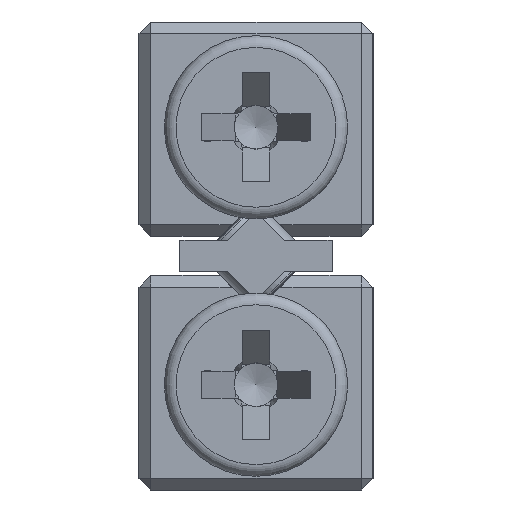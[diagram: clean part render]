
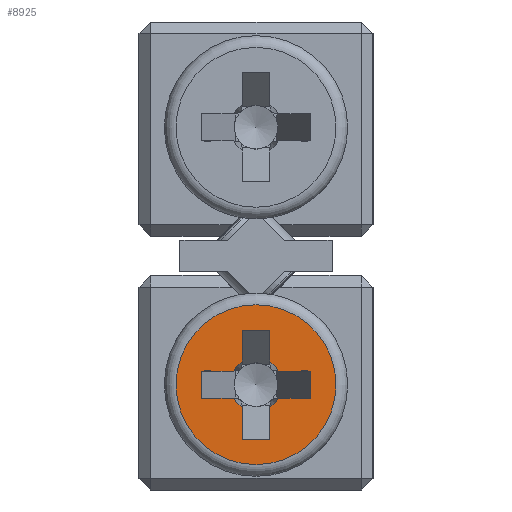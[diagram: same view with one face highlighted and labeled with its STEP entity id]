
A CAD part, left-side view. The second image highlights one B-rep face of the part: STEP entity #8925.
In plain terms, the highlighted planar face has unit normal (-1, 0, 0).
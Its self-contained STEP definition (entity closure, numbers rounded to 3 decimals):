
#24 = ORIENTED_EDGE ( 'NONE', *, *, #16150, .F. ) ;
#313 = CARTESIAN_POINT ( 'NONE',  ( -61.5, -0.35, 4.1 ) ) ;
#413 = VECTOR ( 'NONE', #11009, 1000. ) ;
#450 = LINE ( 'NONE', #17462, #6856 ) ;
#516 = VERTEX_POINT ( 'NONE', #16585 ) ;
#629 = CARTESIAN_POINT ( 'NONE',  ( -61.5, 1.4, 3.05 ) ) ;
#664 = LINE ( 'NONE', #7741, #19933 ) ;
#729 = DIRECTION ( 'NONE',  ( -1., 0., 0. ) ) ;
#1115 = CIRCLE ( 'NONE', #4017, 0.678 ) ;
#1182 = CARTESIAN_POINT ( 'NONE',  ( -61.5, 0., 2.7 ) ) ;
#1490 = VERTEX_POINT ( 'NONE', #2680 ) ;
#1980 = EDGE_CURVE ( 'NONE', #20779, #22407, #5879, .T. ) ;
#2108 = AXIS2_PLACEMENT_3D ( 'NONE', #13806, #6939, #20787 ) ;
#2187 = DIRECTION ( 'NONE',  ( 0., 0., 1. ) ) ;
#2680 = CARTESIAN_POINT ( 'NONE',  ( -61.5, -0.35, 1.3 ) ) ;
#2776 = VECTOR ( 'NONE', #5892, 1000. ) ;
#3002 = LINE ( 'NONE', #9977, #2776 ) ;
#3244 = ORIENTED_EDGE ( 'NONE', *, *, #3549, .F. ) ;
#3386 = EDGE_CURVE ( 'NONE', #18626, #16954, #21115, .T. ) ;
#3407 = CARTESIAN_POINT ( 'NONE',  ( -61.5, -0.35, 4.1 ) ) ;
#3509 = ORIENTED_EDGE ( 'NONE', *, *, #5970, .T. ) ;
#3549 = EDGE_CURVE ( 'NONE', #516, #17840, #20418, .T. ) ;
#3640 = CARTESIAN_POINT ( 'NONE',  ( -61.5, 0., 0.65 ) ) ;
#3646 = FACE_OUTER_BOUND ( 'NONE', #7151, .T. ) ;
#3744 = DIRECTION ( 'NONE',  ( 0., 1., 0. ) ) ;
#3799 = LINE ( 'NONE', #16242, #13519 ) ;
#3919 = LINE ( 'NONE', #17848, #5748 ) ;
#3938 = CIRCLE ( 'NONE', #2108, 0.678 ) ;
#3954 = ORIENTED_EDGE ( 'NONE', *, *, #8080, .T. ) ;
#4017 = AXIS2_PLACEMENT_3D ( 'NONE', #10865, #19435, #2187 ) ;
#4794 = CARTESIAN_POINT ( 'NONE',  ( -61.5, 0.581, 3.05 ) ) ;
#5191 = EDGE_CURVE ( 'NONE', #19274, #19274, #22182, .T. ) ;
#5231 = LINE ( 'NONE', #5561, #16868 ) ;
#5510 = DIRECTION ( 'NONE',  ( 0., -1., 0. ) ) ;
#5561 = CARTESIAN_POINT ( 'NONE',  ( -61.5, -1.4, 2.35 ) ) ;
#5697 = EDGE_CURVE ( 'NONE', #10994, #1490, #450, .T. ) ;
#5748 = VECTOR ( 'NONE', #12161, 1000. ) ;
#5798 = ORIENTED_EDGE ( 'NONE', *, *, #21522, .F. ) ;
#5879 = LINE ( 'NONE', #629, #413 ) ;
#5892 = DIRECTION ( 'NONE',  ( 0., -1., 0. ) ) ;
#5970 = EDGE_CURVE ( 'NONE', #19897, #14652, #11843, .T. ) ;
#5976 = DIRECTION ( 'NONE',  ( 0., 0., 1. ) ) ;
#6063 = DIRECTION ( 'NONE',  ( 0., 0., 1. ) ) ;
#6307 = ORIENTED_EDGE ( 'NONE', *, *, #11446, .F. ) ;
#6421 = VERTEX_POINT ( 'NONE', #8206 ) ;
#6501 = CIRCLE ( 'NONE', #17443, 0.678 ) ;
#6505 = CARTESIAN_POINT ( 'NONE',  ( -61.5, 0., 2.7 ) ) ;
#6810 = DIRECTION ( 'NONE',  ( 0., 0., 1. ) ) ;
#6856 = VECTOR ( 'NONE', #7284, 1000. ) ;
#6939 = DIRECTION ( 'NONE',  ( -1., 0., 0. ) ) ;
#7120 = CARTESIAN_POINT ( 'NONE',  ( -61.5, 0.581, 2.35 ) ) ;
#7151 = EDGE_LOOP ( 'NONE', ( #16895 ) ) ;
#7284 = DIRECTION ( 'NONE',  ( 0., 0., -1. ) ) ;
#7615 = CARTESIAN_POINT ( 'NONE',  ( -61.5, -0.35, 4.1 ) ) ;
#7736 = CARTESIAN_POINT ( 'NONE',  ( -61.5, -1.4, 2.35 ) ) ;
#7741 = CARTESIAN_POINT ( 'NONE',  ( -61.5, 0.35, 1.3 ) ) ;
#8080 = EDGE_CURVE ( 'NONE', #21343, #16954, #664, .T. ) ;
#8138 = DIRECTION ( 'NONE',  ( 0., 0., -1. ) ) ;
#8206 = CARTESIAN_POINT ( 'NONE',  ( -61.5, -0.581, 2.35 ) ) ;
#8251 = CIRCLE ( 'NONE', #15899, 0.678 ) ;
#8387 = VERTEX_POINT ( 'NONE', #19574 ) ;
#8562 = LINE ( 'NONE', #10609, #9134 ) ;
#8701 = CARTESIAN_POINT ( 'NONE',  ( -61.5, 0., 2.7 ) ) ;
#8784 = ORIENTED_EDGE ( 'NONE', *, *, #8829, .F. ) ;
#8829 = EDGE_CURVE ( 'NONE', #10994, #6421, #8251, .T. ) ;
#8836 = CARTESIAN_POINT ( 'NONE',  ( -61.5, -0.35, 2.119 ) ) ;
#8925 = ADVANCED_FACE ( 'NONE', ( #3646, #19171 ), #22509, .F. ) ;
#9134 = VECTOR ( 'NONE', #19392, 1000. ) ;
#9160 = ORIENTED_EDGE ( 'NONE', *, *, #1980, .T. ) ;
#9196 = DIRECTION ( 'NONE',  ( 0., 0., -1. ) ) ;
#9380 = ORIENTED_EDGE ( 'NONE', *, *, #11016, .F. ) ;
#9977 = CARTESIAN_POINT ( 'NONE',  ( -61.5, 0.35, 1.3 ) ) ;
#10205 = ORIENTED_EDGE ( 'NONE', *, *, #13922, .T. ) ;
#10507 = CARTESIAN_POINT ( 'NONE',  ( -61.5, -0.35, 3.281 ) ) ;
#10609 = CARTESIAN_POINT ( 'NONE',  ( -61.5, -1.4, 2.35 ) ) ;
#10641 = VECTOR ( 'NONE', #21673, 1000. ) ;
#10706 = DIRECTION ( 'NONE',  ( 0., 0., 1. ) ) ;
#10865 = CARTESIAN_POINT ( 'NONE',  ( -61.5, 0., 2.7 ) ) ;
#10994 = VERTEX_POINT ( 'NONE', #8836 ) ;
#11009 = DIRECTION ( 'NONE',  ( 0., -1., 0. ) ) ;
#11016 = EDGE_CURVE ( 'NONE', #20779, #14107, #3919, .T. ) ;
#11030 = CARTESIAN_POINT ( 'NONE',  ( -61.5, -1.4, 3.05 ) ) ;
#11056 = ORIENTED_EDGE ( 'NONE', *, *, #11830, .T. ) ;
#11446 = EDGE_CURVE ( 'NONE', #21343, #22407, #6501, .T. ) ;
#11731 = CARTESIAN_POINT ( 'NONE',  ( -61.5, 0.35, 1.3 ) ) ;
#11830 = EDGE_CURVE ( 'NONE', #18626, #18370, #14238, .T. ) ;
#11843 = LINE ( 'NONE', #11731, #13050 ) ;
#12161 = DIRECTION ( 'NONE',  ( 0., 0., -1. ) ) ;
#12246 = VERTEX_POINT ( 'NONE', #7120 ) ;
#12311 = AXIS2_PLACEMENT_3D ( 'NONE', #1182, #16831, #8138 ) ;
#12822 = ORIENTED_EDGE ( 'NONE', *, *, #3386, .F. ) ;
#13050 = VECTOR ( 'NONE', #6810, 1000. ) ;
#13490 = CARTESIAN_POINT ( 'NONE',  ( -61.5, 0.35, 1.3 ) ) ;
#13519 = VECTOR ( 'NONE', #5510, 1000. ) ;
#13806 = CARTESIAN_POINT ( 'NONE',  ( -61.5, 0., 2.7 ) ) ;
#13870 = EDGE_CURVE ( 'NONE', #12246, #14652, #1115, .T. ) ;
#13922 = EDGE_CURVE ( 'NONE', #8387, #17840, #3799, .T. ) ;
#14107 = VERTEX_POINT ( 'NONE', #17164 ) ;
#14238 = LINE ( 'NONE', #313, #18557 ) ;
#14652 = VERTEX_POINT ( 'NONE', #17750 ) ;
#15660 = ORIENTED_EDGE ( 'NONE', *, *, #5697, .T. ) ;
#15691 = DIRECTION ( 'NONE',  ( -1., 0., 0. ) ) ;
#15899 = AXIS2_PLACEMENT_3D ( 'NONE', #6505, #729, #5976 ) ;
#15971 = DIRECTION ( 'NONE',  ( 0., 0., -1. ) ) ;
#16150 = EDGE_CURVE ( 'NONE', #19897, #1490, #3002, .T. ) ;
#16242 = CARTESIAN_POINT ( 'NONE',  ( -61.5, 1.4, 3.05 ) ) ;
#16585 = CARTESIAN_POINT ( 'NONE',  ( -61.5, -1.4, 2.35 ) ) ;
#16831 = DIRECTION ( 'NONE',  ( -1., 0., 0. ) ) ;
#16868 = VECTOR ( 'NONE', #22600, 1000. ) ;
#16895 = ORIENTED_EDGE ( 'NONE', *, *, #5191, .T. ) ;
#16954 = VERTEX_POINT ( 'NONE', #22090 ) ;
#17164 = CARTESIAN_POINT ( 'NONE',  ( -61.5, 1.4, 2.35 ) ) ;
#17423 = EDGE_CURVE ( 'NONE', #12246, #14107, #8562, .T. ) ;
#17443 = AXIS2_PLACEMENT_3D ( 'NONE', #8701, #15691, #6063 ) ;
#17462 = CARTESIAN_POINT ( 'NONE',  ( -61.5, -0.35, 4.1 ) ) ;
#17750 = CARTESIAN_POINT ( 'NONE',  ( -61.5, 0.35, 2.119 ) ) ;
#17840 = VERTEX_POINT ( 'NONE', #11030 ) ;
#17848 = CARTESIAN_POINT ( 'NONE',  ( -61.5, 1.4, 3.05 ) ) ;
#18313 = VECTOR ( 'NONE', #3744, 1000. ) ;
#18370 = VERTEX_POINT ( 'NONE', #10507 ) ;
#18484 = ORIENTED_EDGE ( 'NONE', *, *, #13870, .F. ) ;
#18557 = VECTOR ( 'NONE', #9196, 1000. ) ;
#18626 = VERTEX_POINT ( 'NONE', #3407 ) ;
#18688 = EDGE_CURVE ( 'NONE', #516, #6421, #5231, .T. ) ;
#18787 = ORIENTED_EDGE ( 'NONE', *, *, #17423, .T. ) ;
#19171 = FACE_BOUND ( 'NONE', #21614, .T. ) ;
#19274 = VERTEX_POINT ( 'NONE', #3640 ) ;
#19392 = DIRECTION ( 'NONE',  ( 0., 1., 0. ) ) ;
#19435 = DIRECTION ( 'NONE',  ( -1., 0., 0. ) ) ;
#19525 = AXIS2_PLACEMENT_3D ( 'NONE', #20685, #21010, #15971 ) ;
#19574 = CARTESIAN_POINT ( 'NONE',  ( -61.5, -0.581, 3.05 ) ) ;
#19897 = VERTEX_POINT ( 'NONE', #13490 ) ;
#19933 = VECTOR ( 'NONE', #10706, 1000. ) ;
#20097 = CARTESIAN_POINT ( 'NONE',  ( -61.5, 0.35, 3.281 ) ) ;
#20418 = LINE ( 'NONE', #7736, #10641 ) ;
#20685 = CARTESIAN_POINT ( 'NONE',  ( -61.5, 2.35, 2.7 ) ) ;
#20779 = VERTEX_POINT ( 'NONE', #22448 ) ;
#20787 = DIRECTION ( 'NONE',  ( 0., 0., 1. ) ) ;
#21010 = DIRECTION ( 'NONE',  ( 1., 0., 0. ) ) ;
#21115 = LINE ( 'NONE', #7615, #18313 ) ;
#21289 = ORIENTED_EDGE ( 'NONE', *, *, #18688, .T. ) ;
#21343 = VERTEX_POINT ( 'NONE', #20097 ) ;
#21522 = EDGE_CURVE ( 'NONE', #8387, #18370, #3938, .T. ) ;
#21614 = EDGE_LOOP ( 'NONE', ( #8784, #15660, #24, #3509, #18484, #18787, #9380, #9160, #6307, #3954, #12822, #11056, #5798, #10205, #3244, #21289 ) ) ;
#21673 = DIRECTION ( 'NONE',  ( 0., 0., 1. ) ) ;
#22090 = CARTESIAN_POINT ( 'NONE',  ( -61.5, 0.35, 4.1 ) ) ;
#22182 = CIRCLE ( 'NONE', #12311, 2.05 ) ;
#22407 = VERTEX_POINT ( 'NONE', #4794 ) ;
#22448 = CARTESIAN_POINT ( 'NONE',  ( -61.5, 1.4, 3.05 ) ) ;
#22509 = PLANE ( 'NONE',  #19525 ) ;
#22600 = DIRECTION ( 'NONE',  ( 0., 1., 0. ) ) ;
